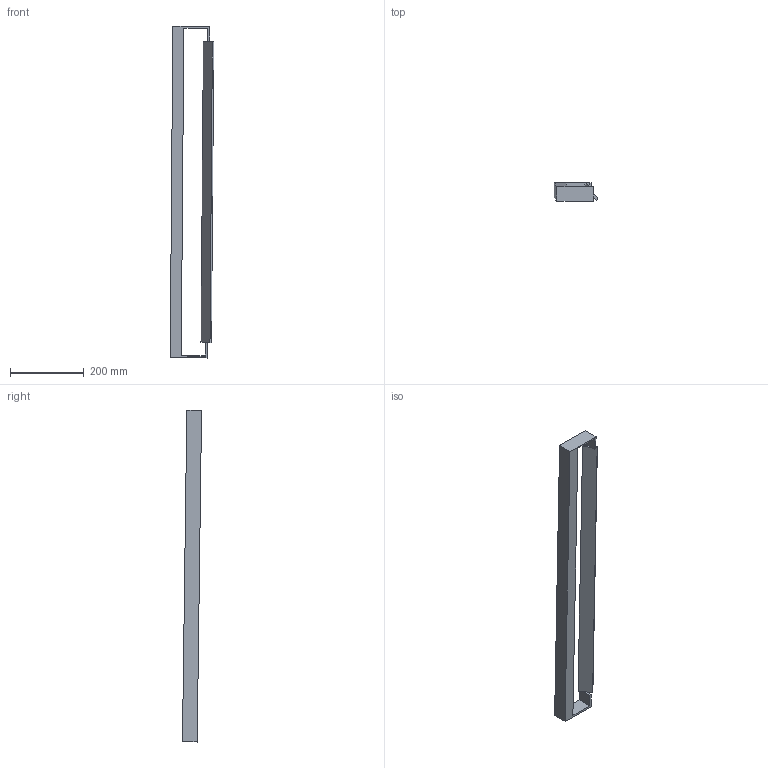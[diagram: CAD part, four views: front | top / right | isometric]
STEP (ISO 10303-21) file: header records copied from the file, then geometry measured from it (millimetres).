
FILE_DESCRIPTION(/* description */ (''),/* implementation_level */ '2;1');
FILE_NAME(/* name */ 'D:\TK Lighting\2021\Dexter\Dexter 3503.stp',/* time_stamp */ '2021-02-01T22:59:41+01:00',/* author */ ('Admin'),/* organization */ (''),/* preprocessor_version */ 'ST-DEVELOPER v16.5',/* originating_system */ 'Autodesk Inventor 2017',/* authorisation */ '');
FILE_SCHEMA (('AUTOMOTIVE_DESIGN { 1 0 10303 214 3 1 1 }'));
Products named in the file (3): Dexter 3503; Uchwyt 3503; Klosz
Assembly tree (2 placements, depth 2):
  Dexter 3503
    Uchwyt 3503
    Klosz
Bounding box: 118.52 x 51.94 x 901.22 mm (x, y, z)
Volume: 1230812.6 mm3; surface area: 224501.1 mm2
Topology: 2 solids, 2 shells, 33 faces, 72 edges, 48 vertices
Faces by surface type: plane 29, cylinder 4
Full cylindrical faces by diameter (mm): 2 x4
Entity records: 1027 total; most frequent: CARTESIAN_POINT 154, DIRECTION 152, ORIENTED_EDGE 136, EDGE_CURVE 68, LINE 60, VECTOR 60, VERTEX_POINT 48, AXIS2_PLACEMENT_3D 46
